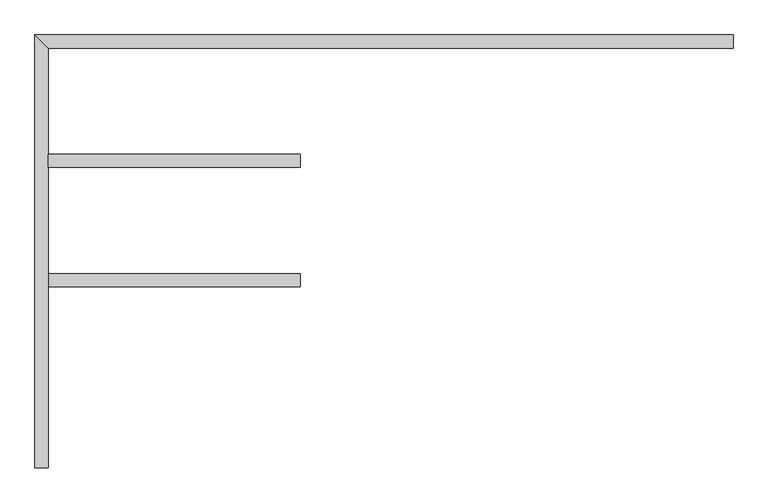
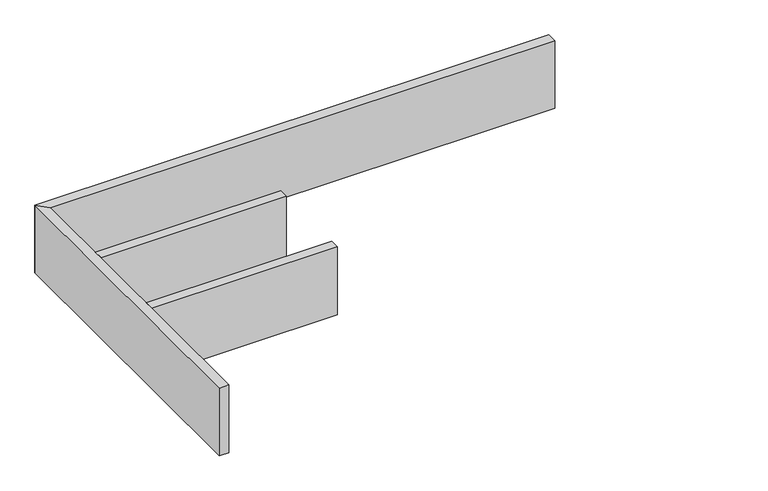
"""IFC4 building model written with IfcOpenShell, lengths in millimetres: proxy geometry, FOUNDATION^PO 2_WALL HUNG WORK WALL SHELVES-PARTS SOLID."""

from ifc_helpers import new_model, si_unit, origin, origin_with_axes, place, context, project, spatial, polyline, outline, extrude, source, transform, mapped, element, save


def generic_models_1c28c470(model_context):
    return source(origin(), model_context, "Body", "SweptSolid", [
        extrude(outline(polyline([(38.1, 901.7), (762.0, 901.7), (762.0, 863.6), (38.1, 863.6), (38.1, 901.7)])), origin_with_axes(), (0.0, 0.0, 1.0), 279.4),
        extrude(outline(polyline([(2006.6, 1244.6), (2006.6, 1206.5), (38.1, 1206.5), (0.0, 1244.6), (2006.6, 1244.6)])), origin_with_axes(), (0.0, 0.0, 1.0), 279.4),
        extrude(outline(polyline([(0.0, 0.0), (0.0, 1244.6), (38.1, 1206.5), (38.1, 0.0), (0.0, 0.0)])), origin_with_axes(), (0.0, 0.0, 1.0), 279.4),
        extrude(outline(polyline([(38.1, 558.8), (762.0, 558.8), (762.0, 520.7), (38.1, 520.7), (38.1, 558.8)])), origin_with_axes(), (0.0, 0.0, 1.0), 279.4),
    ])


if __name__ == "__main__":
    model = new_model("IFC4")
    model_context = context("Model", 3, world=origin())
    ifc_project = project(units=[si_unit("LENGTHUNIT", "METRE", prefix="MILLI")], contexts=[model_context])
    site = spatial("IfcSite", under=ifc_project)
    building = spatial("IfcBuilding", under=site)
    placement = place(None, origin())
    generic_models_shape = generic_models_1c28c470(model_context)
    element("IfcBuildingElementProxy", 1, Name="FOUNDATION^PO 2_WALL HUNG WORK WALL SHELVES-PARTS SOLID", ObjectType="FOUNDATION^PO 2_WALL HUNG WORK WALL SHELVES-PARTS SOLID", at=placement, inside=building, context=model_context, shape_type="MappedRepresentation", body=[
        mapped(generic_models_shape, transform((0.0, 0.0, 0.0), x_axis=(1.0, 0.0, 0.0), y_axis=(0.0, 1.0, 0.0), z_axis=(0.0, 0.0, 1.0))),
    ])
    save(model, "model.ifc")
